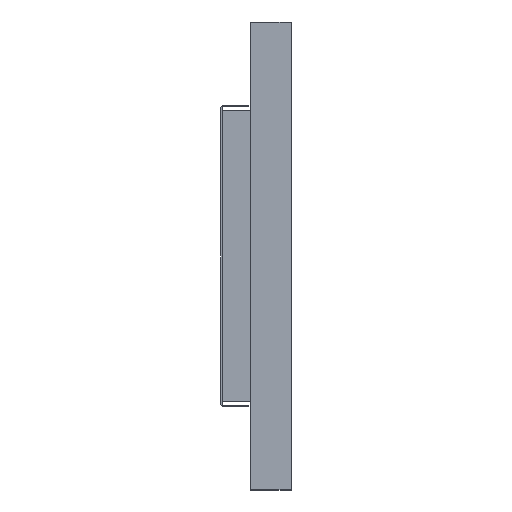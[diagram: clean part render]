
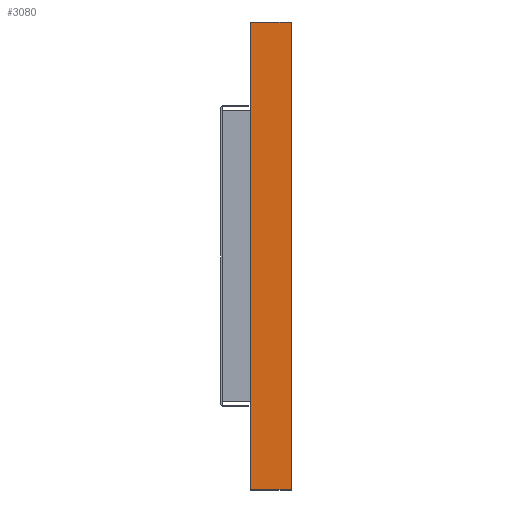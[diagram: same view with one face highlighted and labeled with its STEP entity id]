
A CAD part, left-side view. The second image highlights one B-rep face of the part: STEP entity #3080.
In plain terms, the highlighted planar face has unit normal (-1, 0, 0).
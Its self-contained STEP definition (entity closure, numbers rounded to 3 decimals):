
#75 = CARTESIAN_POINT ( 'NONE',  ( -258.592, -7.233, -22. ) ) ;
#87 = CARTESIAN_POINT ( 'NONE',  ( -258.592, -12.233, 36. ) ) ;
#104 = DIRECTION ( 'NONE',  ( 0., -1., 0. ) ) ;
#233 = VERTEX_POINT ( 'NONE', #3039 ) ;
#282 = VECTOR ( 'NONE', #104, 1000. ) ;
#476 = LINE ( 'NONE', #1158, #1924 ) ;
#507 = ORIENTED_EDGE ( 'NONE', *, *, #4228, .T. ) ;
#754 = ORIENTED_EDGE ( 'NONE', *, *, #3859, .T. ) ;
#837 = EDGE_LOOP ( 'NONE', ( #507, #1891, #3509, #754 ) ) ;
#891 = EDGE_CURVE ( 'NONE', #4186, #2329, #476, .T. ) ;
#988 = DIRECTION ( 'NONE',  ( 0., 0., 1. ) ) ;
#1029 = LINE ( 'NONE', #2705, #3078 ) ;
#1067 = CARTESIAN_POINT ( 'NONE',  ( -258.592, -7.233, 36. ) ) ;
#1137 = FACE_OUTER_BOUND ( 'NONE', #837, .T. ) ;
#1158 = CARTESIAN_POINT ( 'NONE',  ( -258.592, -7.233, 36. ) ) ;
#1224 = DIRECTION ( 'NONE',  ( 1., 0., 0. ) ) ;
#1856 = DIRECTION ( 'NONE',  ( 0., 0., -1. ) ) ;
#1891 = ORIENTED_EDGE ( 'NONE', *, *, #891, .F. ) ;
#1924 = VECTOR ( 'NONE', #2294, 1000. ) ;
#2294 = DIRECTION ( 'NONE',  ( 0., -1., 0. ) ) ;
#2329 = VERTEX_POINT ( 'NONE', #87 ) ;
#2543 = EDGE_CURVE ( 'NONE', #233, #4186, #1029, .T. ) ;
#2705 = CARTESIAN_POINT ( 'NONE',  ( -258.592, -7.233, -22. ) ) ;
#2973 = DIRECTION ( 'NONE',  ( 0., 0., 1. ) ) ;
#3003 = LINE ( 'NONE', #4337, #282 ) ;
#3039 = CARTESIAN_POINT ( 'NONE',  ( -258.592, -7.233, -22. ) ) ;
#3078 = VECTOR ( 'NONE', #988, 1000. ) ;
#3080 = ADVANCED_FACE ( 'NONE', ( #1137 ), #3589, .F. ) ;
#3137 = AXIS2_PLACEMENT_3D ( 'NONE', #75, #1224, #1856 ) ;
#3355 = VECTOR ( 'NONE', #2973, 1000. ) ;
#3509 = ORIENTED_EDGE ( 'NONE', *, *, #2543, .F. ) ;
#3589 = PLANE ( 'NONE',  #3137 ) ;
#3663 = LINE ( 'NONE', #4330, #3355 ) ;
#3859 = EDGE_CURVE ( 'NONE', #233, #4075, #3003, .T. ) ;
#4075 = VERTEX_POINT ( 'NONE', #4503 ) ;
#4186 = VERTEX_POINT ( 'NONE', #1067 ) ;
#4228 = EDGE_CURVE ( 'NONE', #4075, #2329, #3663, .T. ) ;
#4330 = CARTESIAN_POINT ( 'NONE',  ( -258.592, -12.233, -22. ) ) ;
#4337 = CARTESIAN_POINT ( 'NONE',  ( -258.592, -7.233, -22. ) ) ;
#4503 = CARTESIAN_POINT ( 'NONE',  ( -258.592, -12.233, -22. ) ) ;
